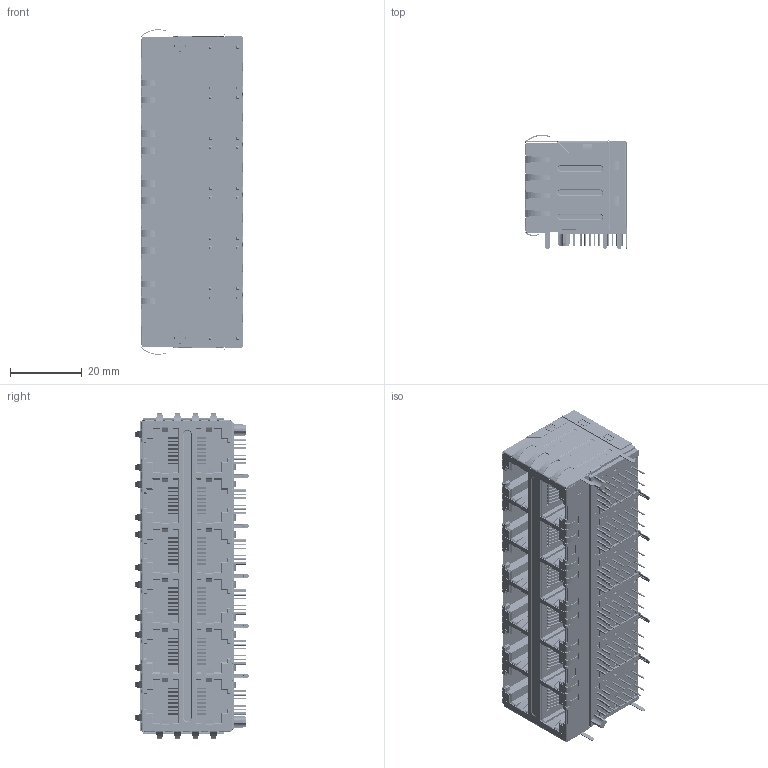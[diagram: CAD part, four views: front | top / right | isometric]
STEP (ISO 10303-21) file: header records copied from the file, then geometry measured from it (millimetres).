
FILE_DESCRIPTION((''),'2;1');
FILE_NAME('2X6-057_ASM','2020-04-07T09:16:01',('Administrator'),(''),'CREO PARAMETRIC BY PTC INC, 2018400','CREO PARAMETRIC BY PTC INC, 2018400','');
FILE_SCHEMA(('CONFIG_CONTROL_DESIGN'));
Products named in the file (8): TONG1_1; TONG2_1; SU_1; LED_1; X_1; Y_1; Z_1; 2X6-057_ASM
Assembly tree (291 placements, depth 2):
  2X6-057_ASM
    TONG1_1
    TONG2_1
    SU_1
    LED_1  x24
    X_1  x96
    Y_1  x120
    Z_1  x48
Bounding box: 28.6 x 31.73 x 90.69 mm (x, y, z)
Volume: 46785.8 mm3; surface area: 46290.6 mm2
Topology: 291 solids, 291 shells, 7683 faces, 19670 edges, 12685 vertices
Faces by surface type: plane 5172, cylinder 2097, bspline 274, torus 136, sphere 4
Entity records: 179453 total; most frequent: CARTESIAN_POINT 41889, ORIENTED_EDGE 28832, DIRECTION 27858, EDGE_CURVE 14416, VECTOR 10516, LINE 10516, VERTEX_POINT 9185, AXIS2_PLACEMENT_3D 8671
